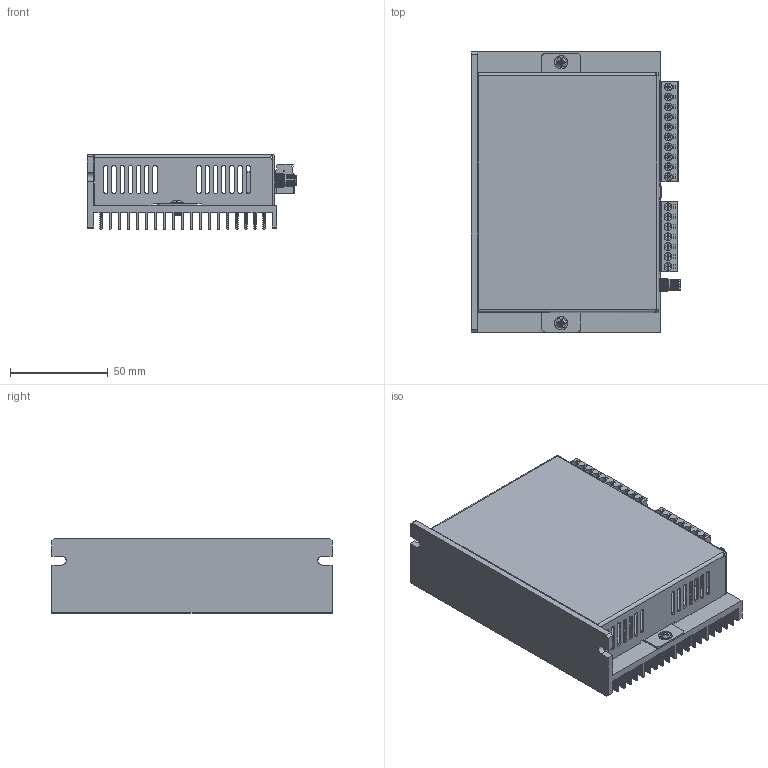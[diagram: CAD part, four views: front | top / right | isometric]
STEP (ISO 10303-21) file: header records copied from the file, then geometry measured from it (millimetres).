
FILE_DESCRIPTION (( 'STEP AP214' ), '1' );
FILE_NAME ('MLD-030-ST装配体1.STEP', '2015-11-25T07:26:16', ( '微软用户' ), ( '微软中国' ), 'SwSTEP 2.0', 'SolidWorks 2014', '' );
FILE_SCHEMA (( 'AUTOMOTIVE_DESIGN' ));
Length unit declared in the file: millimetre
Products named in the file (13): 7inP傷赽釱; 10Pin傷赽釱; 奻裔; 菁釱; MLD-030-ST蚾饜极1; 10inP傷赽; 蹟佪; 囀离萇弇ん; M3蹟佪; 媼憤奪; 唅蛌羲壽; 萇弇ん; 7inP傷赽
Assembly tree (28 placements, depth 2):
  MLD-030-ST蚾饜极1
    菁釱
    奻裔
    10Pin傷赽釱
    7inP傷赽釱
    10inP傷赽
    7inP傷赽
    唅蛌羲壽
    媼憤奪
    M3蹟佪  x2
    囀离萇弇ん
    蹟佪  x17
  萇弇ん
Bounding box: 106.81 x 143.2 x 38.24 mm (x, y, z)
Volume: 128203.9 mm3; surface area: 144796.4 mm2
Topology: 34 solids, 34 shells, 2301 faces, 6851 edges, 4680 vertices
Faces by surface type: cylinder 1025, plane 1021, bspline 205, cone 28, sphere 12, torus 10
Entity records: 59813 total; most frequent: CARTESIAN_POINT 13765, DIRECTION 9767, ORIENTED_EDGE 9570, EDGE_CURVE 4785, AXIS2_PLACEMENT_3D 3507, VERTEX_POINT 3141, LINE 2753, VECTOR 2753
